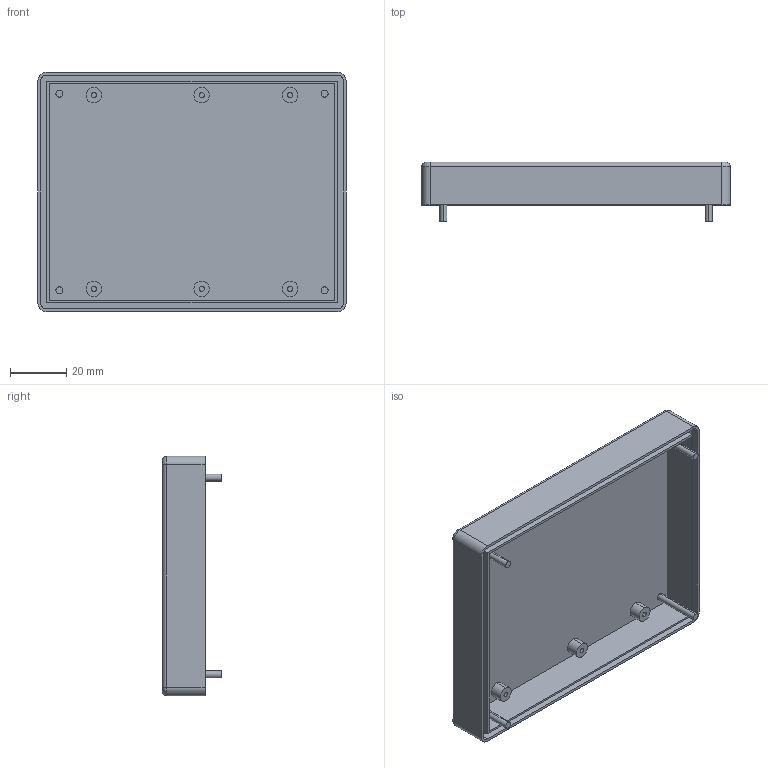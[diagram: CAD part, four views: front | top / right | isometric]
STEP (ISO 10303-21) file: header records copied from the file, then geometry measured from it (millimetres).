
FILE_DESCRIPTION (( 'STEP AP214' ), '1' );
FILE_NAME ('Tapa PP96.STEP', '2017-06-29T17:12:47', ( 'aaa' ), ( '' ), 'SwSTEP 2.0', 'SolidWorks 2013', '' );
FILE_SCHEMA (( 'AUTOMOTIVE_DESIGN' ));
Length unit declared in the file: millimetre
Products named in the file (1): Tapa PP96
Bounding box: 109.85 x 21.1 x 85.32 mm (x, y, z)
Volume: 37646.4 mm3; surface area: 32518.2 mm2
Topology: 1 solids, 1 shells, 90 faces, 196 edges, 128 vertices
Faces by surface type: cylinder 44, plane 42, torus 4
Entity records: 2522 total; most frequent: DIRECTION 470, CARTESIAN_POINT 415, ORIENTED_EDGE 392, EDGE_CURVE 196, AXIS2_PLACEMENT_3D 183, VERTEX_POINT 128, EDGE_LOOP 110, VECTOR 104
